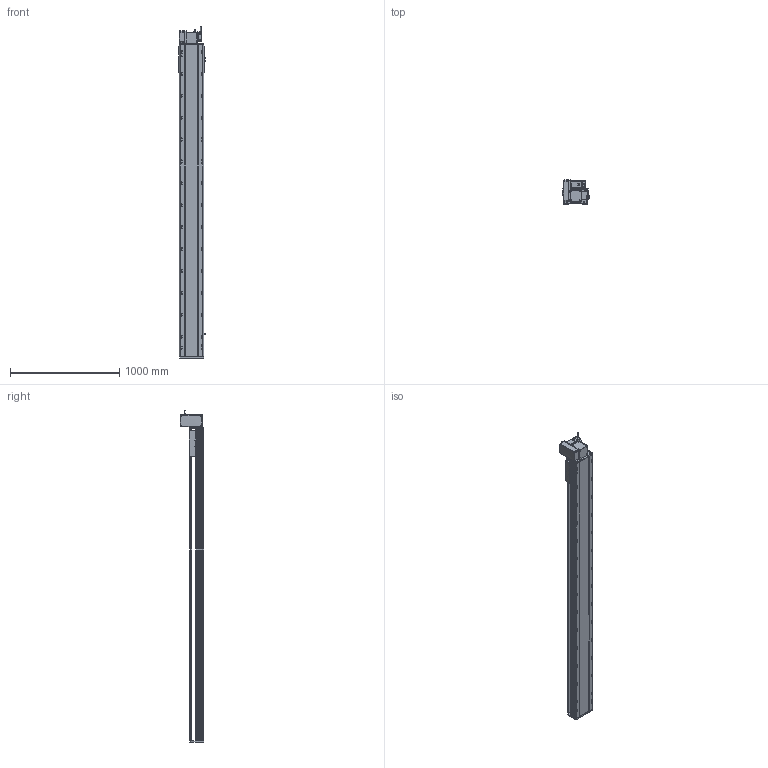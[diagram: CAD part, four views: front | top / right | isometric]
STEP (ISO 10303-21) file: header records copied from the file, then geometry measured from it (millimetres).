
FILE_DESCRIPTION (( 'STEP AP214' ), '1' );
FILE_NAME ('RTB22S-XX-2500-LW-M75-C4.STEP', '2025-12-12T06:03:35', ( '' ), ( '' ), 'SwSTEP 2.0', 'SolidWorks 2018', '' );
FILE_SCHEMA (( 'AUTOMOTIVE_DESIGN' ));
Length unit declared in the file: millimetre
Products named in the file (14): RTB22S-GY-005P^RTB22S-LW-々湍釱蚾饜_RTB22S-XX-XX-LW-M75-C4; RTB22S-GY-018P^RTB22S-LW-々湍釱蚾饜_RTB22S-XX-XX-LW-M75-C4; OMRON EE-SX672 传感器^RTB22S-XX-XX-LW-M75-C4; RTB22S-GY-008-M75--萇儂啣^RTB22S-LW-々湍釱蚾饜_RTB22S-XX-XX-LW-M75-C4; 750W萇儂^RTB22S-XX-XX-LW-M75-C4; RTB22S-GY-017P^RTB22S-LW-々湍釱蚾饜_RTB22S-XX-XX-LW-M75-C4; RTB22S-GY-007奻裔^RTB22S-XX-XX-LW-M75-C4; RTB22S-L-004賑釱^RTB22S-XX-XX-LW-M75-C4; RTB22S-L-011菁釱^RTB22S-XX-XX-LW-M75-C4; RTB22S-GY-001耜裔^RTB22S-XX-XX-LW-M75-C4; RTH22-GY-013外置感应片^RTB22S-XX-XX-LW-M75-C4; RTB22S-XX-2500-LW-M75-C4; RTB22S-LW-々湍釱蚾饜^RTB22S-XX-XX-LW-M75-C4; RTB22S-GY-014--々湍釱^RTB22S-LW-々湍釱蚾饜_RTB22S-XX-XX-LW-M75-C4
Assembly tree (16 placements, depth 3):
  RTB22S-XX-2500-LW-M75-C4
    RTB22S-L-011菁釱^RTB22S-XX-XX-LW-M75-C4
    RTB22S-GY-001耜裔^RTB22S-XX-XX-LW-M75-C4
    750W萇儂^RTB22S-XX-XX-LW-M75-C4
    RTB22S-GY-007奻裔^RTB22S-XX-XX-LW-M75-C4
    RTB22S-L-004賑釱^RTB22S-XX-XX-LW-M75-C4
    RTH22-GY-013外置感应片^RTB22S-XX-XX-LW-M75-C4
    OMRON EE-SX672 传感器^RTB22S-XX-XX-LW-M75-C4  x3
    RTB22S-LW-々湍釱蚾饜^RTB22S-XX-XX-LW-M75-C4
      RTB22S-GY-014--々湍釱^RTB22S-LW-々湍釱蚾饜_RTB22S-XX-XX-LW-M75-C4
      RTB22S-GY-017P^RTB22S-LW-々湍釱蚾饜_RTB22S-XX-XX-LW-M75-C4  x2
      RTB22S-GY-005P^RTB22S-LW-々湍釱蚾饜_RTB22S-XX-XX-LW-M75-C4
      RTB22S-GY-008-M75--萇儂啣^RTB22S-LW-々湍釱蚾饜_RTB22S-XX-XX-LW-M75-C4
      RTB22S-GY-018P^RTB22S-LW-々湍釱蚾饜_RTB22S-XX-XX-LW-M75-C4
Bounding box: 238.5 x 215.5 x 3032.2 mm (x, y, z)
Volume: 38762669.7 mm3; surface area: 3964283.8 mm2
Topology: 15 solids, 15 shells, 2109 faces, 5736 edges, 3662 vertices
Faces by surface type: plane 929, cylinder 706, bspline 296, cone 166, sphere 8, torus 4
Entity records: 57374 total; most frequent: CARTESIAN_POINT 16208, ORIENTED_EDGE 8204, DIRECTION 8016, EDGE_CURVE 4102, AXIS2_PLACEMENT_3D 2874, VERTEX_POINT 2666, VECTOR 2268, LINE 2268
